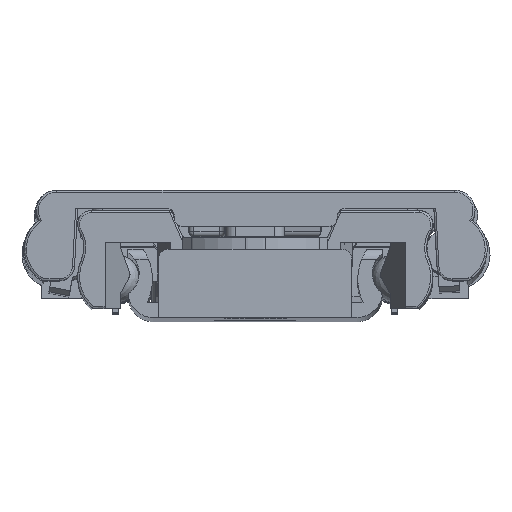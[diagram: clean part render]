
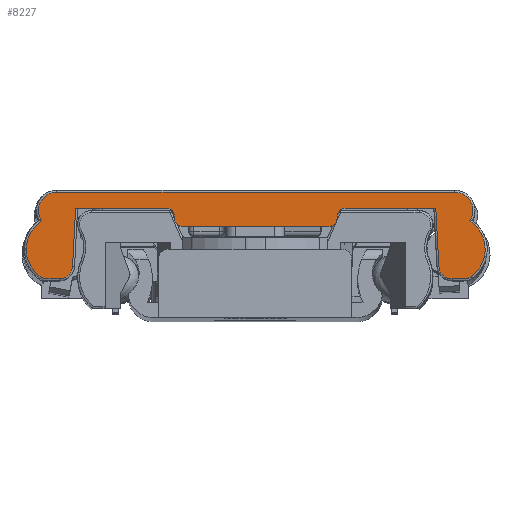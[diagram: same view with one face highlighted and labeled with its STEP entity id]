
A CAD part, top view. The second image highlights one B-rep face of the part: STEP entity #8227.
In plain terms, the highlighted planar face has unit normal (0, 0, 1) as drawn and (0, 0, -1) by its records, which use the part's own axes.
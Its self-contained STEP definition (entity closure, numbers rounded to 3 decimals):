
#7605=CARTESIAN_POINT('',(38.9,-13.718,0.0));
#7606=VERTEX_POINT('',#7605);
#7624=CARTESIAN_POINT('',(38.6,-8.,0.0));
#7625=VERTEX_POINT('',#7624);
#7633=CARTESIAN_POINT('',(38.6,-8.,0.0));
#7634=DIRECTION('',(0.052,-0.999,0.0));
#7635=VECTOR('',#7634,5.726);
#7636=LINE('',#7633,#7635);
#7637=EDGE_CURVE('',#7625,#7606,#7636,.T.);
#7647=CARTESIAN_POINT('',(40.198,-14.95,0.0));
#7648=VERTEX_POINT('',#7647);
#7666=CARTESIAN_POINT('',(40.198,-13.65,0.0));
#7667=DIRECTION('',(0.0,0.0,1.0));
#7668=DIRECTION('',(-0.688,-0.725,0.0));
#7669=AXIS2_PLACEMENT_3D('',#7666,#7667,#7668);
#7670=CIRCLE('',#7669,1.3);
#7671=EDGE_CURVE('',#7606,#7648,#7670,.T.);
#7688=CARTESIAN_POINT('',(41.725,-14.95,0.0));
#7689=VERTEX_POINT('',#7688);
#7690=CARTESIAN_POINT('',(40.198,-14.95,0.0));
#7691=DIRECTION('',(1.0,0.0,0.0));
#7692=VECTOR('',#7691,1.527);
#7693=LINE('',#7690,#7692);
#7694=EDGE_CURVE('',#7648,#7689,#7693,.T.);
#7721=CARTESIAN_POINT('',(41.932,-9.272,0.0));
#7722=VERTEX_POINT('',#7721);
#7723=CARTESIAN_POINT('',(40.15,-12.05,0.0));
#7724=DIRECTION('',(0.0,0.0,1.0));
#7725=DIRECTION('',(0.997,-0.072,0.0));
#7726=AXIS2_PLACEMENT_3D('',#7723,#7724,#7725);
#7727=CIRCLE('',#7726,3.3);
#7728=EDGE_CURVE('',#7689,#7722,#7727,.T.);
#7757=CARTESIAN_POINT('',(40.45,-6.45,0.0));
#7758=VERTEX_POINT('',#7757);
#7768=CARTESIAN_POINT('',(40.45,-8.25,0.0));
#7769=DIRECTION('',(0.0,0.0,1.0));
#7770=DIRECTION('',(0.861,0.509,0.0));
#7771=AXIS2_PLACEMENT_3D('',#7768,#7769,#7770);
#7772=CIRCLE('',#7771,1.8);
#7773=EDGE_CURVE('',#7722,#7758,#7772,.T.);
#7783=CARTESIAN_POINT('',(1.35,-6.45,0.0));
#7784=VERTEX_POINT('',#7783);
#7794=CARTESIAN_POINT('',(40.45,-6.45,0.0));
#7795=DIRECTION('',(-1.0,0.0,0.0));
#7796=VECTOR('',#7795,39.1);
#7797=LINE('',#7794,#7796);
#7798=EDGE_CURVE('',#7758,#7784,#7797,.T.);
#7818=CARTESIAN_POINT('',(-0.131,-9.272,0.0));
#7819=VERTEX_POINT('',#7818);
#7820=CARTESIAN_POINT('',(1.35,-8.25,0.0));
#7821=DIRECTION('',(0.0,0.0,1.0));
#7822=DIRECTION('',(-0.861,0.509,0.0));
#7823=AXIS2_PLACEMENT_3D('',#7820,#7821,#7822);
#7824=CIRCLE('',#7823,1.8);
#7825=EDGE_CURVE('',#7784,#7819,#7824,.T.);
#7852=CARTESIAN_POINT('',(0.075,-14.95,0.0));
#7853=VERTEX_POINT('',#7852);
#7854=CARTESIAN_POINT('',(1.65,-12.05,0.0));
#7855=DIRECTION('',(0.0,0.0,1.0));
#7856=DIRECTION('',(-0.997,-0.072,0.0));
#7857=AXIS2_PLACEMENT_3D('',#7854,#7855,#7856);
#7858=CIRCLE('',#7857,3.3);
#7859=EDGE_CURVE('',#7819,#7853,#7858,.T.);
#7894=CARTESIAN_POINT('',(1.602,-14.95,0.0));
#7895=VERTEX_POINT('',#7894);
#7905=CARTESIAN_POINT('',(0.075,-14.95,0.0));
#7906=DIRECTION('',(1.0,0.0,0.0));
#7907=VECTOR('',#7906,1.527);
#7908=LINE('',#7905,#7907);
#7909=EDGE_CURVE('',#7853,#7895,#7908,.T.);
#7919=CARTESIAN_POINT('',(2.9,-13.718,0.0));
#7920=VERTEX_POINT('',#7919);
#7938=CARTESIAN_POINT('',(1.602,-13.65,0.0));
#7939=DIRECTION('',(0.0,0.0,1.0));
#7940=DIRECTION('',(0.688,-0.725,0.0));
#7941=AXIS2_PLACEMENT_3D('',#7938,#7939,#7940);
#7942=CIRCLE('',#7941,1.3);
#7943=EDGE_CURVE('',#7895,#7920,#7942,.T.);
#7953=CARTESIAN_POINT('',(3.2,-8.,0.0));
#7954=VERTEX_POINT('',#7953);
#7971=CARTESIAN_POINT('',(2.9,-13.718,0.0));
#7972=DIRECTION('',(0.052,0.999,0.0));
#7973=VECTOR('',#7972,5.726);
#7974=LINE('',#7971,#7973);
#7975=EDGE_CURVE('',#7920,#7954,#7974,.T.);
#8102=CARTESIAN_POINT('',(28.1,-9.8,0.0));
#8103=VERTEX_POINT('',#8102);
#8110=CARTESIAN_POINT('',(28.9,-9.,0.0));
#8111=VERTEX_POINT('',#8110);
#8112=CARTESIAN_POINT('',(28.1,-9.0,0.0));
#8113=DIRECTION('',(0.0,0.0,1.0));
#8114=DIRECTION('',(0.707,-0.707,0.0));
#8115=AXIS2_PLACEMENT_3D('',#8112,#8113,#8114);
#8116=CIRCLE('',#8115,0.8);
#8117=EDGE_CURVE('',#8103,#8111,#8116,.T.);
#8134=CARTESIAN_POINT('',(28.9,-8.8,0.0));
#8135=VERTEX_POINT('',#8134);
#8136=CARTESIAN_POINT('',(28.9,-9.,0.0));
#8137=DIRECTION('',(0.0,1.0,0.0));
#8138=VECTOR('',#8137,0.2);
#8139=LINE('',#8136,#8138);
#8140=EDGE_CURVE('',#8111,#8135,#8139,.T.);
#8152=CARTESIAN_POINT('',(20.9,-8.942,0.0));
#8153=DIRECTION('',(0.0,0.0,1.0));
#8154=DIRECTION('',(1.0,0.0,0.0));
#8155=AXIS2_PLACEMENT_3D('',#8152,#8153,#8154);
#8156=PLANE('',#8155);
#8157=CARTESIAN_POINT('',(29.7,-8.,0.0));
#8158=VERTEX_POINT('',#8157);
#8159=CARTESIAN_POINT('',(29.7,-8.,0.0));
#8160=DIRECTION('',(1.0,0.0,0.0));
#8161=VECTOR('',#8160,8.9);
#8162=LINE('',#8159,#8161);
#8163=EDGE_CURVE('',#8158,#7625,#8162,.T.);
#8164=ORIENTED_EDGE('',*,*,#8163,.F.);
#8165=CARTESIAN_POINT('',(29.7,-8.8,0.0));
#8166=DIRECTION('',(0.0,0.0,-1.0));
#8167=DIRECTION('',(-0.707,0.707,0.0));
#8168=AXIS2_PLACEMENT_3D('',#8165,#8166,#8167);
#8169=CIRCLE('',#8168,0.8);
#8170=EDGE_CURVE('',#8135,#8158,#8169,.T.);
#8171=ORIENTED_EDGE('',*,*,#8170,.F.);
#8172=ORIENTED_EDGE('',*,*,#8140,.F.);
#8173=ORIENTED_EDGE('',*,*,#8117,.F.);
#8174=CARTESIAN_POINT('',(13.7,-9.8,0.0));
#8175=VERTEX_POINT('',#8174);
#8176=CARTESIAN_POINT('',(13.7,-9.8,0.0));
#8177=DIRECTION('',(1.0,0.0,0.0));
#8178=VECTOR('',#8177,14.4);
#8179=LINE('',#8176,#8178);
#8180=EDGE_CURVE('',#8175,#8103,#8179,.T.);
#8181=ORIENTED_EDGE('',*,*,#8180,.F.);
#8182=CARTESIAN_POINT('',(12.9,-9.,0.0));
#8183=VERTEX_POINT('',#8182);
#8184=CARTESIAN_POINT('',(13.7,-9.,0.0));
#8185=DIRECTION('',(0.0,0.0,1.0));
#8186=DIRECTION('',(-0.707,-0.707,0.0));
#8187=AXIS2_PLACEMENT_3D('',#8184,#8185,#8186);
#8188=CIRCLE('',#8187,0.8);
#8189=EDGE_CURVE('',#8183,#8175,#8188,.T.);
#8190=ORIENTED_EDGE('',*,*,#8189,.F.);
#8191=CARTESIAN_POINT('',(12.9,-8.8,0.0));
#8192=VERTEX_POINT('',#8191);
#8193=CARTESIAN_POINT('',(12.9,-8.8,0.0));
#8194=DIRECTION('',(0.0,-1.0,0.0));
#8195=VECTOR('',#8194,0.2);
#8196=LINE('',#8193,#8195);
#8197=EDGE_CURVE('',#8192,#8183,#8196,.T.);
#8198=ORIENTED_EDGE('',*,*,#8197,.F.);
#8199=CARTESIAN_POINT('',(12.1,-8.0,0.0));
#8200=VERTEX_POINT('',#8199);
#8201=CARTESIAN_POINT('',(12.1,-8.8,0.0));
#8202=DIRECTION('',(0.0,0.0,-1.0));
#8203=DIRECTION('',(0.707,0.707,0.0));
#8204=AXIS2_PLACEMENT_3D('',#8201,#8202,#8203);
#8205=CIRCLE('',#8204,0.8);
#8206=EDGE_CURVE('',#8200,#8192,#8205,.T.);
#8207=ORIENTED_EDGE('',*,*,#8206,.F.);
#8208=CARTESIAN_POINT('',(3.2,-8.,0.0));
#8209=DIRECTION('',(1.0,0.0,0.0));
#8210=VECTOR('',#8209,8.9);
#8211=LINE('',#8208,#8210);
#8212=EDGE_CURVE('',#7954,#8200,#8211,.T.);
#8213=ORIENTED_EDGE('',*,*,#8212,.F.);
#8214=ORIENTED_EDGE('',*,*,#7975,.F.);
#8215=ORIENTED_EDGE('',*,*,#7943,.F.);
#8216=ORIENTED_EDGE('',*,*,#7909,.F.);
#8217=ORIENTED_EDGE('',*,*,#7859,.F.);
#8218=ORIENTED_EDGE('',*,*,#7825,.F.);
#8219=ORIENTED_EDGE('',*,*,#7798,.F.);
#8220=ORIENTED_EDGE('',*,*,#7773,.F.);
#8221=ORIENTED_EDGE('',*,*,#7728,.F.);
#8222=ORIENTED_EDGE('',*,*,#7694,.F.);
#8223=ORIENTED_EDGE('',*,*,#7671,.F.);
#8224=ORIENTED_EDGE('',*,*,#7637,.F.);
#8225=EDGE_LOOP('',(#8164,#8171,#8172,#8173,#8181,#8190,#8198,#8207,#8213,#8214,#8215,#8216,#8217,#8218,#8219,#8220,#8221,#8222,#8223,#8224));
#8226=FACE_OUTER_BOUND('',#8225,.T.);
#8227=ADVANCED_FACE('',(#8226),#8156,.F.);
